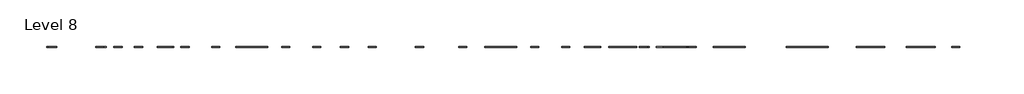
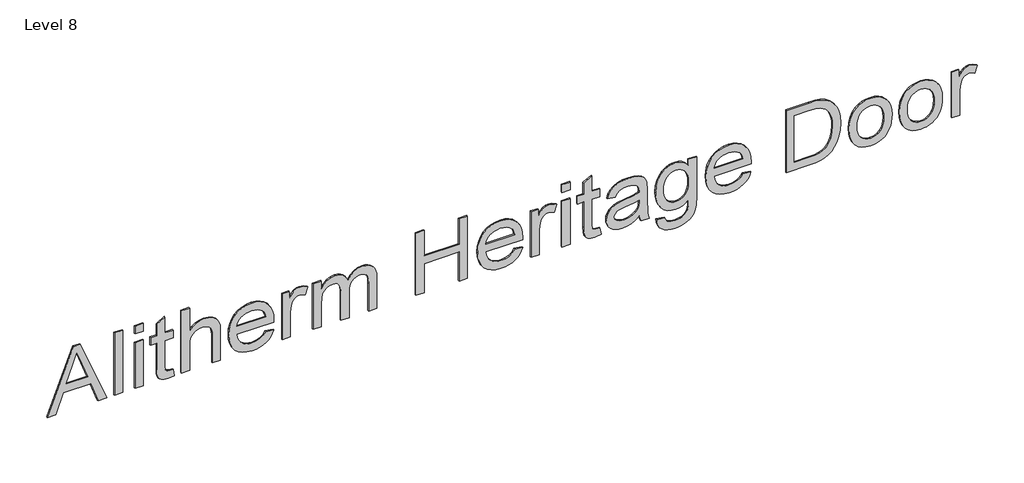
# One storey, part 2 of 2: 1 proxy.
"""IFC4 building model written with IfcOpenShell, lengths in millimetres."""

from ifc_helpers import new_model, si_unit, frame, origin, place, context, project, spatial, polyline, outline, extrude, element, save

model = new_model("IFC4")

# Units and contexts
model_context = context("Model", 3, world=origin())
ifc_project = project(units=[si_unit("LENGTHUNIT", "METRE", prefix="MILLI")], contexts=[model_context])

# Site, building, storey
site = spatial("IfcSite", under=ifc_project)
building = spatial("IfcBuilding", under=site)
storey = spatial("IfcBuildingStorey", under=building, Name="Level 8", Elevation=21000.0)

# Proxy
placement = place(None, origin())
element("IfcBuildingElementProxy", 1, Name="600mm Arial", ObjectType="600mm Arial", at=placement, inside=storey, context=model_context, shape_type="SweptSolid", body=[
    extrude(outline(polyline([(22161.0305335, -156835.6302633), (22161.0305335, -156757.6014171), (22345.6459181, -156690.1014171), (22345.6459181, -156446.7841094), (22161.0305335, -156379.1398786), (22161.0305335, -156301.1110325), (22751.7997643, -156536.9283402), (22751.7997643, -156599.8129556), (22161.0305335, -156835.6302633)]), holes=[polyline([(22419.4920719, -156662.9860325), (22577.4247643, -156605.149494), (22677.9536104, -156568.3706479), (22564.7324566, -156526.9764171), (22419.4920719, -156473.7552633), (22419.4920719, -156662.9860325)])]), frame((0.0, 24202.6264647, 0.0), z_axis=(0.0, 1.0, 0.0), x_axis=(0.0, 0.0, 1.0)), (0.0, 0.0, 1.0), 10.0),
    extrude(outline(polyline([(-156157.6014171, 24202.6264647), (-156231.447571, 24202.6264647), (-156231.447571, 24212.6264647), (-156157.6014171, 24212.6264647), (-156157.6014171, 24202.6264647)])), frame((0.0, 0.0, 22161.0305335), z_axis=(0.0, 0.0, 1.0), x_axis=(1.0, 0.0, 0.0)), (0.0, 0.0, 1.0), 590.7692308),
    extrude(outline(polyline([(-155972.9860325, 24202.6264647), (-156046.8321863, 24202.6264647), (-156046.8321863, 24212.6264647), (-155972.9860325, 24212.6264647), (-155972.9860325, 24202.6264647)])), frame((0.0, 0.0, 22677.9536104), z_axis=(0.0, 0.0, 1.0), x_axis=(1.0, 0.0, 0.0)), (0.0, 0.0, 1.0), 73.8461538),
    extrude(outline(polyline([(-155972.9860325, 24202.6264647), (-156046.8321863, 24202.6264647), (-156046.8321863, 24212.6264647), (-155972.9860325, 24212.6264647), (-155972.9860325, 24202.6264647)])), frame((0.0, 0.0, 22161.0305335), z_axis=(0.0, 0.0, 1.0), x_axis=(1.0, 0.0, 0.0)), (0.0, 0.0, 1.0), 433.8461538),
    extrude(outline(polyline([(22222.6170719, -155705.2937248), (22225.6459181, -155737.4571863), (22226.8899085, -155751.9704075), (22230.6218796, -155762.6254556), (22244.1074566, -155775.2456479), (22282.1843796, -155779.1398786), (22521.0305335, -155779.1398786), (22521.0305335, -155705.2937248), (22594.8766873, -155705.2937248), (22594.8766873, -155779.1398786), (22743.7228412, -155779.1398786), (22700.3093796, -155852.9860325), (22594.8766873, -155852.9860325), (22594.8766873, -155908.3706479), (22521.0305335, -155908.3706479), (22521.0305335, -155852.9860325), (22280.0209181, -155852.9860325), (22227.1242835, -155850.7504556), (22196.2228412, -155844.0437248), (22178.2300527, -155831.8562248), (22164.0593796, -155813.1783402), (22154.8646681, -155786.7480517), (22151.7997643, -155751.3033402), (22158.8670719, -155696.0629556), (22222.6170719, -155705.2937248)])), frame((0.0, 24202.6264647, 0.0), z_axis=(0.0, 1.0, 0.0), x_axis=(0.0, 0.0, 1.0)), (0.0, 0.0, 1.0), 10.0),
    extrude(outline(polyline([(22161.0305335, -155631.447571), (22161.0305335, -155557.6014171), (22391.5113027, -155557.6014171), (22435.7540912, -155554.5905998), (22469.2516873, -155545.5581479), (22494.4560143, -155529.4403594), (22513.818995, -155505.1735325), (22526.1507258, -155475.8766575), (22530.2613027, -155444.6687248), (22528.7378652, -155424.3321863), (22524.1675527, -155406.447571), (22516.5503652, -155391.0148786), (22505.8863027, -155378.0341094), (22491.8778893, -155367.7486527), (22474.2276489, -155360.4018979), (22452.9355816, -155355.993845), (22428.0016873, -155354.524494), (22161.0305335, -155354.524494), (22161.0305335, -155280.6783402), (22435.6459181, -155280.6783402), (22491.7156296, -155284.4643979), (22532.7132258, -155295.822571), (22562.5509662, -155315.978821), (22585.1411104, -155346.1591094), (22599.36587, -155384.4884363), (22604.1074566, -155429.0918017), (22599.7625046, -155466.2222104), (22586.7276489, -155500.0172825), (22565.0028893, -155530.4770181), (22534.5882258, -155557.6014171), (22751.7997643, -155557.6014171), (22751.7997643, -155631.447571), (22161.0305335, -155631.447571)])), frame((0.0, 24202.6264647, 0.0), z_axis=(0.0, 1.0, 0.0), x_axis=(0.0, 0.0, 1.0)), (0.0, 0.0, 1.0), 10.0),
    extrude(outline(polyline([(22290.2613027, -154875.3898786), (22261.0906296, -154896.086994), (22241.0786104, -154922.9860325), (22229.5040912, -154956.086994), (22225.6459181, -154995.3898786), (22227.7282498, -155022.6990734), (22233.975245, -155047.6555036), (22244.3869037, -155070.2591695), (22258.9632258, -155090.510071), (22277.4518075, -155107.470708), (22299.600245, -155120.2035806), (22325.4085383, -155128.7086887), (22354.8766873, -155132.9860325), (22354.8766873, -154801.1110325), (22374.7805335, -154800.6783402), (22426.2438748, -154804.1804435), (22471.5954373, -154814.6867536), (22510.835221, -154832.1972705), (22543.9632258, -154856.711994), (22570.2763268, -154886.7435445), (22589.0713989, -154920.8045421), (22600.3484421, -154958.8949868), (22604.1074566, -155001.0148786), (22600.3394277, -155044.5365133), (22589.0353412, -155083.8033402), (22570.1951969, -155118.8153594), (22543.818995, -155149.572571), (22510.6188748, -155174.6236527), (22471.3069758, -155192.5172825), (22425.8832979, -155203.2534604), (22374.3478412, -155206.8321863), (22324.5025888, -155203.2895181), (22280.5437546, -155192.6615133), (22242.4713388, -155174.9481719), (22210.2853412, -155150.149494), (22184.6979013, -155119.3111527), (22166.4211585, -155083.478821), (22155.4551128, -155042.6524988), (22151.7997643, -154996.8321863), (22153.9181537, -154960.1750349), (22160.2733219, -154926.9343498), (22170.8652691, -154897.110131), (22185.693995, -154870.7023786), (22204.3628652, -154847.9454676), (22226.475245, -154829.0737729), (22252.0311344, -154814.0872945), (22281.0305335, -154802.9860325), (22290.2613027, -154875.3898786)]), holes=[polyline([(22428.7228412, -155132.9860325), (22450.7045118, -155128.9791214), (22470.3514469, -155120.852619), (22487.6636465, -155108.6065253), (22502.6411104, -155092.2408402), (22514.7249445, -155072.7381359), (22523.3562546, -155051.0809844), (22528.5350407, -155027.2693859), (22530.2613027, -155001.3033402), (22528.0978412, -154972.8357921), (22521.6074566, -154947.1446863), (22510.7901489, -154924.2300229), (22495.6459181, -154904.0918017), (22483.0798123, -154893.10322), (22467.7372643, -154884.5124748), (22428.7228412, -154874.524494), (22428.7228412, -155132.9860325)])]), frame((0.0, 24202.6264647, 0.0), z_axis=(0.0, 1.0, 0.0), x_axis=(0.0, 0.0, 1.0)), (0.0, 0.0, 1.0), 10.0),
    extrude(outline(polyline([(22161.0305335, -154726.8321863), (22161.0305335, -154652.9860325), (22389.0593796, -154652.9860325), (22434.0593796, -154649.993244), (22475.3093796, -154641.0148786), (22498.3141873, -154630.3237729), (22515.693995, -154614.4043017), (22526.6194758, -154594.6987729), (22530.2613027, -154572.649494), (22526.475245, -154546.6879556), (22515.1170719, -154520.7264171), (22581.318995, -154496.0629556), (22598.4103412, -154533.4187248), (22604.1074566, -154570.197571), (22600.537745, -154594.2841094), (22589.8286104, -154616.3514171), (22567.9055335, -154638.3466094), (22530.693995, -154662.2168017), (22594.8766873, -154662.2168017), (22594.8766873, -154726.8321863), (22161.0305335, -154726.8321863)])), frame((0.0, 24202.6264647, 0.0), z_axis=(0.0, 1.0, 0.0), x_axis=(0.0, 0.0, 1.0)), (0.0, 0.0, 1.0), 10.0),
    extrude(outline(polyline([(22161.0305335, -154449.9091094), (22161.0305335, -154376.0629556), (22379.8286104, -154376.0629556), (22430.6338989, -154373.2504556), (22467.9536104, -154364.8129556), (22494.8526489, -154350.1014171), (22514.3959181, -154328.4668017), (22526.2949566, -154302.2528594), (22530.2613027, -154273.8033402), (22528.7739229, -154255.6978714), (22524.3117835, -154240.3237729), (22516.8748844, -154227.6810445), (22506.4632258, -154217.7696863), (22476.6795719, -154204.9511767), (22434.9247643, -154200.6783402), (22161.0305335, -154200.6783402), (22161.0305335, -154126.8321863), (22405.9343796, -154126.8321863), (22436.303971, -154125.0247945), (22462.2204373, -154119.602619), (22483.6837787, -154110.5656599), (22500.693995, -154097.9139171), (22513.6296921, -154082.5308041), (22522.8694758, -154065.2997344), (22528.413346, -154046.220708), (22530.2613027, -154025.2937248), (22527.3766873, -154002.6314652), (22518.7228412, -153983.1062248), (22505.3634662, -153967.9259363), (22488.3622643, -153958.2985325), (22463.5365431, -153953.1603113), (22426.7036104, -153951.447571), (22161.0305335, -153951.447571), (22161.0305335, -153877.6014171), (22458.4343796, -153877.6014171), (22493.1624445, -153879.7152993), (22523.0677931, -153886.056946), (22548.1504253, -153896.626357), (22568.4103412, -153911.4235325), (22584.0278292, -153930.141982), (22595.1831777, -153952.4752152), (22601.8763868, -153978.423232), (22604.1074566, -154007.9860325), (22598.7438748, -154046.2612729), (22582.6531296, -154080.7504556), (22555.835221, -154111.4535806), (22518.2901489, -154138.3706479), (22554.4379854, -154154.4523786), (22581.5353412, -154179.0437248), (22591.4106417, -154194.4854315), (22598.4644277, -154211.9643979), (22604.1074566, -154253.0341094), (22598.5726008, -154291.3634363), (22581.9680335, -154325.2937248), (22556.2769277, -154353.8514171), (22523.4824566, -154376.0629556), (22594.8766873, -154376.0629556), (22594.8766873, -154449.9091094), (22161.0305335, -154449.9091094)])), frame((0.0, 24202.6264647, 0.0), z_axis=(0.0, 1.0, 0.0), x_axis=(0.0, 0.0, 1.0)), (0.0, 0.0, 1.0), 10.0),
    extrude(outline(polyline([(22161.0305335, -153526.8321863), (22161.0305335, -153452.9860325), (22437.9536104, -153452.9860325), (22437.9536104, -153139.1398786), (22161.0305335, -153139.1398786), (22161.0305335, -153065.2937248), (22751.7997643, -153065.2937248), (22751.7997643, -153139.1398786), (22511.7997643, -153139.1398786), (22511.7997643, -153452.9860325), (22751.7997643, -153452.9860325), (22751.7997643, -153526.8321863), (22161.0305335, -153526.8321863)])), frame((0.0, 24202.6264647, 0.0), z_axis=(0.0, 1.0, 0.0), x_axis=(0.0, 0.0, 1.0)), (0.0, 0.0, 1.0), 10.0),
    extrude(outline(polyline([(22290.2613027, -152641.5437248), (22261.0906296, -152662.2408402), (22241.0786104, -152689.1398786), (22229.5040912, -152722.2408402), (22225.6459181, -152761.5437248), (22227.7282498, -152788.8529195), (22233.975245, -152813.8093498), (22244.3869037, -152836.4130157), (22258.9632258, -152856.6639171), (22277.4518075, -152873.6245541), (22299.600245, -152886.3574267), (22325.4085383, -152894.8625349), (22354.8766873, -152899.1398786), (22354.8766873, -152567.2648786), (22374.7805335, -152566.8321863), (22426.2438748, -152570.3342897), (22471.5954373, -152580.8405998), (22510.835221, -152598.3511166), (22543.9632258, -152622.8658402), (22570.2763268, -152652.8973907), (22589.0713989, -152686.9583883), (22600.3484421, -152725.048833), (22604.1074566, -152767.1687248), (22600.3394277, -152810.6903594), (22589.0353412, -152849.9571863), (22570.1951969, -152884.9692056), (22543.818995, -152915.7264171), (22510.6188748, -152940.7774988), (22471.3069758, -152958.6711286), (22425.8832979, -152969.4073065), (22374.3478412, -152972.9860325), (22324.5025888, -152969.4433642), (22280.5437546, -152958.8153594), (22242.4713388, -152941.1020181), (22210.2853412, -152916.3033402), (22184.6979013, -152885.4649988), (22166.4211585, -152849.6326671), (22155.4551128, -152808.806345), (22151.7997643, -152762.9860325), (22153.9181537, -152726.328881), (22160.2733219, -152693.088196), (22170.8652691, -152663.2639772), (22185.693995, -152636.8562248), (22204.3628652, -152614.0993137), (22226.475245, -152595.227619), (22252.0311344, -152580.2411407), (22281.0305335, -152569.1398786), (22290.2613027, -152641.5437248)]), holes=[polyline([(22428.7228412, -152899.1398786), (22450.7045118, -152895.1329676), (22470.3514469, -152887.0064652), (22487.6636465, -152874.7603714), (22502.6411104, -152858.3946863), (22514.7249445, -152838.891982), (22523.3562546, -152817.2348306), (22528.5350407, -152793.423232), (22530.2613027, -152767.4571863), (22528.0978412, -152738.9896383), (22521.6074566, -152713.2985325), (22510.7901489, -152690.383869), (22495.6459181, -152670.2456479), (22483.0798123, -152659.2570661), (22467.7372643, -152650.666321), (22428.7228412, -152640.6783402), (22428.7228412, -152899.1398786)])]), frame((0.0, 24202.6264647, 0.0), z_axis=(0.0, 1.0, 0.0), x_axis=(0.0, 0.0, 1.0)), (0.0, 0.0, 1.0), 10.0),
    extrude(outline(polyline([(22161.0305335, -152492.9860325), (22161.0305335, -152419.1398786), (22389.0593796, -152419.1398786), (22434.0593796, -152416.1470902), (22475.3093796, -152407.1687248), (22498.3141873, -152396.477619), (22515.693995, -152380.5581479), (22526.6194758, -152360.852619), (22530.2613027, -152338.8033402), (22526.475245, -152312.8418017), (22515.1170719, -152286.8802633), (22581.318995, -152262.2168017), (22598.4103412, -152299.572571), (22604.1074566, -152336.3514171), (22600.537745, -152360.4379556), (22589.8286104, -152382.5052633), (22567.9055335, -152404.5004556), (22530.693995, -152428.3706479), (22594.8766873, -152428.3706479), (22594.8766873, -152492.9860325), (22161.0305335, -152492.9860325)])), frame((0.0, 24202.6264647, 0.0), z_axis=(0.0, 1.0, 0.0), x_axis=(0.0, 0.0, 1.0)), (0.0, 0.0, 1.0), 10.0),
    extrude(outline(polyline([(-152142.2168017, 24202.6264647), (-152216.0629556, 24202.6264647), (-152216.0629556, 24212.6264647), (-152142.2168017, 24212.6264647), (-152142.2168017, 24202.6264647)])), frame((0.0, 0.0, 22677.9536104), z_axis=(0.0, 0.0, 1.0), x_axis=(1.0, 0.0, 0.0)), (0.0, 0.0, 1.0), 73.8461538),
    extrude(outline(polyline([(-152142.2168017, 24202.6264647), (-152216.0629556, 24202.6264647), (-152216.0629556, 24212.6264647), (-152142.2168017, 24212.6264647), (-152142.2168017, 24202.6264647)])), frame((0.0, 0.0, 22161.0305335), z_axis=(0.0, 0.0, 1.0), x_axis=(1.0, 0.0, 0.0)), (0.0, 0.0, 1.0), 433.8461538),
    extrude(outline(polyline([(22222.6170719, -151874.524494), (22225.6459181, -151906.6879556), (22226.8899085, -151921.2011767), (22230.6218796, -151931.8562248), (22244.1074566, -151944.4764171), (22282.1843796, -151948.3706479), (22521.0305335, -151948.3706479), (22521.0305335, -151874.524494), (22594.8766873, -151874.524494), (22594.8766873, -151948.3706479), (22743.7228412, -151948.3706479), (22700.3093796, -152022.2168017), (22594.8766873, -152022.2168017), (22594.8766873, -152077.6014171), (22521.0305335, -152077.6014171), (22521.0305335, -152022.2168017), (22280.0209181, -152022.2168017), (22227.1242835, -152019.9812248), (22196.2228412, -152013.274494), (22178.2300527, -152001.086994), (22164.0593796, -151982.4091094), (22154.8646681, -151955.978821), (22151.7997643, -151920.5341094), (22158.8670719, -151865.2937248), (22222.6170719, -151874.524494)])), frame((0.0, 24202.6264647, 0.0), z_axis=(0.0, 1.0, 0.0), x_axis=(0.0, 0.0, 1.0)), (0.0, 0.0, 1.0), 10.0),
    extrude(outline(polyline([(22216.4151489, -151523.7552633), (22186.7036104, -151517.1206479), (22161.0305335, -151505.2937248), (22161.0305335, -151431.447571), (22191.4091393, -151440.6062248), (22223.1218796, -151446.1591094), (22351.4151489, -151449.9091094), (22443.2901489, -151449.9091094), (22507.9055335, -151453.5148786), (22535.5798123, -151462.4211286), (22558.0257258, -151476.1591094), (22576.1807739, -151496.8742536), (22590.9824566, -151526.711994), (22600.8262066, -151566.2853113), (22604.1074566, -151616.2071863), (22600.3935143, -151668.2564652), (22589.2516873, -151713.635071), (22571.2588989, -151750.7384363), (22546.9920719, -151777.961994), (22515.2613027, -151797.0905998), (22474.8766873, -151809.9091094), (22465.6459181, -151736.0629556), (22496.3490431, -151721.3874748), (22516.0545719, -151700.4379556), (22526.70962, -151669.7168017), (22530.2613027, -151625.7264171), (22524.9247643, -151578.2023786), (22518.2540912, -151559.4704075), (22508.9151489, -151544.0918017), (22499.5581777, -151535.1945661), (22487.3526489, -151528.8393979), (22454.3959181, -151523.7552633), (22437.9536104, -151524.1879556), (22424.2516873, -151576.760071), (22412.568995, -151652.2648786), (22401.4632258, -151716.1591094), (22391.2949566, -151743.4367536), (22377.2324566, -151767.8658402), (22358.6266873, -151788.6530998), (22334.8286104, -151805.0052633), (22307.0281296, -151815.6062248), (22276.4151489, -151819.1398786), (22250.3724806, -151816.8006359), (22226.7637066, -151809.7829075), (22205.5888268, -151798.0866935), (22186.8478412, -151781.711994), (22171.5143075, -151760.9743137), (22160.5617835, -151736.1891575), (22153.9902691, -151707.3565253), (22151.7997643, -151674.4764171), (22155.4415912, -151633.5689652), (22166.3670719, -151595.3658402), (22186.162745, -151559.0377152), (22216.4151489, -151523.7552633)]), holes=[polyline([(22364.1074566, -151523.7552633), (22343.193995, -151524.1879556), (22310.0209181, -151527.1086286), (22286.0786104, -151535.8706479), (22262.8394277, -151555.6302633), (22243.3141873, -151584.0437248), (22230.0629854, -151619.0918017), (22225.6459181, -151658.7552633), (22229.6483219, -151696.165119), (22241.6555335, -151723.2985325), (22259.6483219, -151739.7949267), (22281.6074566, -151745.2937248), (22296.4992835, -151742.7696863), (22310.0209181, -151735.197571), (22321.3069758, -151722.9559844), (22329.4920719, -151706.4235325), (22341.4632258, -151642.8898786), (22351.8117835, -151573.3706479), (22364.1074566, -151523.7552633)])]), frame((0.0, 24202.6264647, 0.0), z_axis=(0.0, 1.0, 0.0), x_axis=(0.0, 0.0, 1.0)), (0.0, 0.0, 1.0), 10.0),
    extrude(outline(polyline([(22124.1074566, -151366.8321863), (22091.5969397, -151364.6011166), (22063.4403893, -151356.321369), (22039.6378051, -151341.9929435), (22020.1891873, -151321.6158402), (22005.076507, -151296.3889772), (21994.2817354, -151267.5112729), (21987.8048724, -151234.9827272), (21985.6459181, -151198.8033402), (21987.17837, -151168.0506359), (21991.7757258, -151139.8309844), (21999.4379854, -151114.1443859), (22010.1651489, -151090.9908402), (22023.5290311, -151070.5776791), (22039.1014469, -151053.1122344), (22056.8823965, -151038.594506), (22076.8718796, -151027.024494), (22101.6570359, -151018.1903594), (22133.8250046, -151011.8802633), (22220.3093796, -151006.8321863), (22594.8766873, -151006.8321863), (22594.8766873, -151080.6783402), (22539.4920719, -151080.6783402), (22567.7613027, -151105.6392777), (22587.9536104, -151133.791321), (22600.068995, -151165.13447), (22604.1074566, -151199.6687248), (22602.3226008, -151225.8330878), (22596.9680335, -151250.2396383), (22588.0437546, -151272.8883762), (22575.5497643, -151293.7793017), (22559.7790311, -151312.6104315), (22541.0245239, -151329.0797825), (22519.2862426, -151343.1873546), (22494.5641873, -151354.9331479), (22439.7384662, -151370.7805036), (22380.1170719, -151376.0629556), (22336.6495239, -151373.1197464), (22296.3911104, -151364.290119), (22259.3418316, -151349.5740734), (22225.5016873, -151328.9716094), (22197.2955575, -151303.0055637), (22177.1483219, -151272.1987729), (22165.0599806, -151236.5512368), (22161.0305335, -151196.0629556), (22164.4920719, -151162.9439652), (22174.8766873, -151132.6735325), (22192.1843796, -151105.2516575), (22216.4151489, -151080.6783402), (22162.0762066, -151081.7240133), (22130.3093796, -151085.7264171), (22100.4536104, -151099.4283402), (22078.0978412, -151121.7841094), (22069.9578171, -151136.5136767), (22064.1435143, -151154.0196863), (22059.4920719, -151197.3610325), (22063.6026489, -151237.9980517), (22075.9343796, -151269.0437248), (22091.7997643, -151284.836994), (22114.8766873, -151292.9860325), (22124.1074566, -151366.8321863)]), holes=[polyline([(22385.1651489, -151302.2168017), (22418.9376849, -151300.220107), (22448.2841393, -151294.2300229), (22473.2045118, -151284.2465493), (22493.6988027, -151270.2696863), (22509.6948965, -151253.4442657), (22521.1206777, -151234.915119), (22527.9761465, -151214.6822464), (22530.2613027, -151192.7456479), (22527.9400888, -151170.4349508), (22520.9764469, -151149.8009363), (22509.3703772, -151130.8436046), (22493.1218796, -151113.5629556), (22472.312084, -151099.1759363), (22447.02212, -151088.899494), (22417.2519878, -151082.7336286), (22383.0016873, -151080.6783402), (22347.2594998, -151082.6750349), (22316.6194758, -151088.665119), (22291.0816152, -151098.6485926), (22270.6459181, -151112.6254556), (22254.9968796, -151129.5410205), (22243.818995, -151148.3405998), (22237.1122643, -151169.0241935), (22234.8766873, -151191.5918017), (22237.1257859, -151214.3847705), (22243.8730816, -151235.1675229), (22255.1185743, -151253.9400589), (22270.8622643, -151270.7023786), (22291.5007859, -151284.4899387), (22317.4307739, -151294.338196), (22348.6522282, -151300.2471503), (22385.1651489, -151302.2168017)])]), frame((0.0, 24202.6264647, 0.0), z_axis=(0.0, 1.0, 0.0), x_axis=(0.0, 0.0, 1.0)), (0.0, 0.0, 1.0), 10.0),
    extrude(outline(polyline([(22290.2613027, -150592.3129556), (22261.0906296, -150613.010071), (22241.0786104, -150639.9091094), (22229.5040912, -150673.010071), (22225.6459181, -150712.3129556), (22227.7282498, -150739.6221503), (22233.975245, -150764.5785806), (22244.3869037, -150787.1822464), (22258.9632258, -150807.4331479), (22277.4518075, -150824.3937849), (22299.600245, -150837.1266575), (22325.4085383, -150845.6317657), (22354.8766873, -150849.9091094), (22354.8766873, -150518.0341094), (22374.7805335, -150517.6014171), (22426.2438748, -150521.1035205), (22471.5954373, -150531.6098306), (22510.835221, -150549.1203474), (22543.9632258, -150573.635071), (22570.2763268, -150603.6666214), (22589.0713989, -150637.727619), (22600.3484421, -150675.8180637), (22604.1074566, -150717.9379556), (22600.3394277, -150761.4595902), (22589.0353412, -150800.7264171), (22570.1951969, -150835.7384363), (22543.818995, -150866.4956479), (22510.6188748, -150891.5467296), (22471.3069758, -150909.4403594), (22425.8832979, -150920.1765373), (22374.3478412, -150923.7552633), (22324.5025888, -150920.212595), (22280.5437546, -150909.5845902), (22242.4713388, -150891.8712488), (22210.2853412, -150867.072571), (22184.6979013, -150836.2342296), (22166.4211585, -150800.4018979), (22155.4551128, -150759.5755758), (22151.7997643, -150713.7552633), (22153.9181537, -150677.0981118), (22160.2733219, -150643.8574267), (22170.8652691, -150614.033208), (22185.693995, -150587.6254556), (22204.3628652, -150564.8685445), (22226.475245, -150545.9968498), (22252.0311344, -150531.0103714), (22281.0305335, -150519.9091094), (22290.2613027, -150592.3129556)]), holes=[polyline([(22428.7228412, -150849.9091094), (22450.7045118, -150845.9021984), (22470.3514469, -150837.775696), (22487.6636465, -150825.5296022), (22502.6411104, -150809.1639171), (22514.7249445, -150789.6612128), (22523.3562546, -150768.0040613), (22528.5350407, -150744.1924628), (22530.2613027, -150718.2264171), (22528.0978412, -150689.758869), (22521.6074566, -150664.0677633), (22510.7901489, -150641.1530998), (22495.6459181, -150621.0148786), (22483.0798123, -150610.0262969), (22467.7372643, -150601.4355517), (22428.7228412, -150591.447571), (22428.7228412, -150849.9091094)])]), frame((0.0, 24202.6264647, 0.0), z_axis=(0.0, 1.0, 0.0), x_axis=(0.0, 0.0, 1.0)), (0.0, 0.0, 1.0), 10.0),
    extrude(outline(polyline([(22161.0305335, -150203.7552633), (22161.0305335, -149990.149494), (22163.5545719, -149939.5785806), (22171.1266873, -149895.1735325), (22183.58462, -149856.8622344), (22200.7661104, -149824.572571), (22223.9331777, -149796.447571), (22254.3478412, -149770.6302633), (22292.8754854, -149748.2023786), (22340.381495, -149730.2456479), (22396.1807739, -149718.4547825), (22459.5882258, -149714.524494), (22534.2276489, -149720.3297825), (22568.2480816, -149727.5863931), (22600.068995, -149737.7456479), (22629.4199566, -149750.8255758), (22656.0305335, -149766.8442056), (22679.9007258, -149785.8015373), (22701.0305335, -149807.697571), (22726.8838989, -149847.4331479), (22743.2901489, -149894.524494), (22749.6723604, -149939.055744), (22751.7997643, -149999.9571863), (22751.7997643, -150203.7552633), (22161.0305335, -150203.7552633)]), holes=[polyline([(22234.8766873, -150129.9091094), (22677.9536104, -150129.9091094), (22677.9536104, -150001.2552633), (22674.9968796, -149939.0196863), (22666.1266873, -149896.5437248), (22655.8141873, -149874.8234724), (22641.4632258, -149854.806946), (22623.0738027, -149836.4941455), (22600.6459181, -149819.885071), (22573.5665912, -149806.0975109), (22541.2228412, -149796.2492536), (22503.6146681, -149790.3402993), (22460.7420719, -149788.3706479), (22400.0028893, -149792.3910806), (22349.0353412, -149804.4523786), (22307.6591393, -149823.7252152), (22275.693995, -149849.3802633), (22258.4223604, -149873.2504556), (22245.5497643, -149904.1879556), (22237.5449566, -149945.1855517), (22234.8766873, -149999.2360325), (22234.8766873, -150129.9091094)])]), frame((0.0, 24202.6264647, 0.0), z_axis=(0.0, 1.0, 0.0), x_axis=(0.0, 0.0, 1.0)), (0.0, 0.0, 1.0), 10.0),
    extrude(outline(polyline([(22377.9536104, -149640.6783402), (22326.3550527, -149637.329482), (22281.1747643, -149627.2829075), (22242.412745, -149610.5386166), (22210.068995, -149587.0966094), (22184.5762066, -149558.2279195), (22166.3670719, -149525.2035806), (22155.4415912, -149488.0235926), (22151.7997643, -149446.6879556), (22153.4539109, -149420.0999147), (22158.4163508, -149394.5665613), (22166.687084, -149370.0878955), (22178.2661104, -149346.6639171), (22192.8379253, -149325.1329676), (22210.0870239, -149306.3333883), (22230.0134061, -149290.2651791), (22252.6170719, -149276.9283402), (22278.7859421, -149266.4535806), (22309.4079373, -149258.9716094), (22344.4830575, -149254.4824267), (22384.0113027, -149252.9860325), (22432.7838388, -149256.3709484), (22475.9764469, -149266.525696), (22513.5891272, -149283.4502753), (22545.6218796, -149307.1446863), (22571.2093195, -149336.1756359), (22589.4860623, -149369.1098306), (22600.452108, -149405.9472705), (22604.1074566, -149446.6879556), (22601.1056537, -149483.5930036), (22592.100245, -149517.5773786), (22577.0912306, -149548.6410806), (22556.0786104, -149576.7841094), (22523.2030094, -149604.7378354), (22482.5569758, -149624.7047825), (22434.1405094, -149636.6849508), (22377.9536104, -149640.6783402)]), holes=[polyline([(22378.0978412, -149566.8321863), (22413.9076368, -149564.6957681), (22444.8947162, -149558.2865133), (22471.0590792, -149547.6044219), (22492.4007258, -149532.649494), (22508.9647282, -149514.4583883), (22520.7961585, -149494.0677633), (22527.8950167, -149471.477619), (22530.2613027, -149446.6879556), (22527.8860022, -149422.2002753), (22520.7601008, -149399.7949267), (22508.8835984, -149379.4719099), (22492.256495, -149361.2312248), (22471.014007, -149346.1816455), (22445.2913508, -149335.431946), (22415.0885263, -149328.9821262), (22380.4055335, -149326.8321863), (22343.7528893, -149328.9686046), (22312.1122643, -149335.3778594), (22285.4836585, -149346.0599508), (22263.8670719, -149361.0148786), (22247.1453171, -149379.1879556), (22235.2012066, -149399.524494), (22228.0347402, -149422.024494), (22225.6459181, -149446.6879556), (22228.0212186, -149471.477619), (22235.14712, -149494.0677633), (22247.0236224, -149514.4583883), (22263.6507258, -149532.649494), (22285.0554734, -149547.6044219), (22311.2649085, -149558.2865133), (22342.2790311, -149564.6957681), (22378.0978412, -149566.8321863)])]), frame((0.0, 24202.6264647, 0.0), z_axis=(0.0, 1.0, 0.0), x_axis=(0.0, 0.0, 1.0)), (0.0, 0.0, 1.0), 10.0),
    extrude(outline(polyline([(22377.9536104, -149188.3706479), (22326.3550527, -149185.0217897), (22281.1747643, -149174.9752152), (22242.412745, -149158.2309243), (22210.068995, -149134.7889171), (22184.5762066, -149105.9202272), (22166.3670719, -149072.8958883), (22155.4415912, -149035.7159003), (22151.7997643, -148994.3802633), (22153.4539109, -148967.7922224), (22158.4163508, -148942.258869), (22166.687084, -148917.7802032), (22178.2661104, -148894.3562248), (22192.8379253, -148872.8252753), (22210.0870239, -148854.025696), (22230.0134061, -148837.9574868), (22252.6170719, -148824.6206479), (22278.7859421, -148814.1458883), (22309.4079373, -148806.6639171), (22344.4830575, -148802.1747344), (22384.0113027, -148800.6783402), (22432.7838388, -148804.063256), (22475.9764469, -148814.2180036), (22513.5891272, -148831.142583), (22545.6218796, -148854.836994), (22571.2093195, -148883.8679435), (22589.4860623, -148916.8021383), (22600.452108, -148953.6395782), (22604.1074566, -148994.3802633), (22601.1056537, -149031.2853113), (22592.100245, -149065.2696863), (22577.0912306, -149096.3333883), (22556.0786104, -149124.4764171), (22523.2030094, -149152.4301431), (22482.5569758, -149172.3970902), (22434.1405094, -149184.3772585), (22377.9536104, -149188.3706479)]), holes=[polyline([(22378.0978412, -149114.524494), (22413.9076368, -149112.3880758), (22444.8947162, -149105.978821), (22471.0590792, -149095.2967296), (22492.4007258, -149080.3418017), (22508.9647282, -149062.150696), (22520.7961585, -149041.760071), (22527.8950167, -149019.1699267), (22530.2613027, -148994.3802633), (22527.8860022, -148969.892583), (22520.7601008, -148947.4872344), (22508.8835984, -148927.1642176), (22492.256495, -148908.9235325), (22471.014007, -148893.8739532), (22445.2913508, -148883.1242536), (22415.0885263, -148876.6744339), (22380.4055335, -148874.524494), (22343.7528893, -148876.6609123), (22312.1122643, -148883.0701671), (22285.4836585, -148893.7522585), (22263.8670719, -148908.7071863), (22247.1453171, -148926.8802633), (22235.2012066, -148947.2168017), (22228.0347402, -148969.7168017), (22225.6459181, -148994.3802633), (22228.0212186, -149019.1699267), (22235.14712, -149041.760071), (22247.0236224, -149062.150696), (22263.6507258, -149080.3418017), (22285.0554734, -149095.2967296), (22311.2649085, -149105.978821), (22342.2790311, -149112.3880758), (22378.0978412, -149114.524494)])]), frame((0.0, 24202.6264647, 0.0), z_axis=(0.0, 1.0, 0.0), x_axis=(0.0, 0.0, 1.0)), (0.0, 0.0, 1.0), 10.0),
    extrude(outline(polyline([(22161.0305335, -148717.6014171), (22161.0305335, -148643.7552633), (22389.0593796, -148643.7552633), (22434.0593796, -148640.7624748), (22475.3093796, -148631.7841094), (22498.3141873, -148621.0930036), (22515.693995, -148605.1735325), (22526.6194758, -148585.4680036), (22530.2613027, -148563.4187248), (22526.475245, -148537.4571863), (22515.1170719, -148511.4956479), (22581.318995, -148486.8321863), (22598.4103412, -148524.1879556), (22604.1074566, -148560.9668017), (22600.537745, -148585.0533402), (22589.8286104, -148607.1206479), (22567.9055335, -148629.1158402), (22530.693995, -148652.9860325), (22594.8766873, -148652.9860325), (22594.8766873, -148717.6014171), (22161.0305335, -148717.6014171)])), frame((0.0, 24202.6264647, 0.0), z_axis=(0.0, 1.0, 0.0), x_axis=(0.0, 0.0, 1.0)), (0.0, 0.0, 1.0), 10.0),
])

save(model, "model.ifc")
